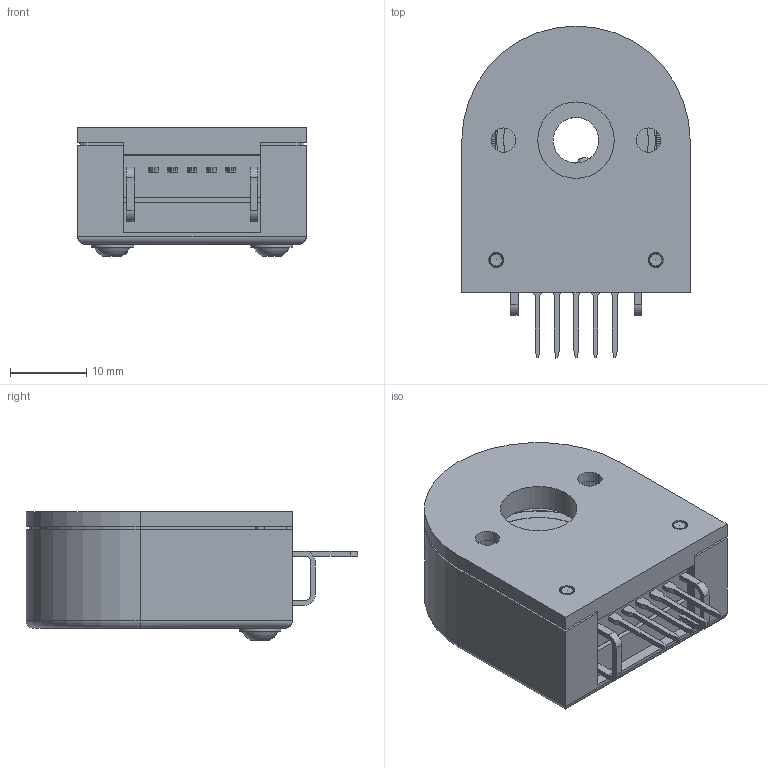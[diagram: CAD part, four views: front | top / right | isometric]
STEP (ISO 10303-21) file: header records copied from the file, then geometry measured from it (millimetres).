
FILE_DESCRIPTION (( 'STEP AP214' ), '1' );
FILE_NAME ('00.012.xx.ZSB.STEP', '2019-09-12T11:50:27', ( '' ), ( '' ), 'SwSTEP 2.0', 'SolidWorks 2019', '' );
FILE_SCHEMA (( 'AUTOMOTIVE_DESIGN' ));
Length unit declared in the file: millimetre
Products named in the file (7): 60.008.01.EIN; 22.004.03.GRU; 00.012.xx.ZSB; socket set screw flat point_iso_ISO 4026 - M2 x 2-N; 90.007.05.EIN; 32.001.01.EIN_Spritzguss; 33.002.XX.EIN
Assembly tree (7 placements, depth 2):
  00.012.xx.ZSB
    32.001.01.EIN_Spritzguss
    60.008.01.EIN
    22.004.03.GRU
    33.002.XX.EIN
    90.007.05.EIN  x2
    socket set screw flat point_iso_ISO 4026 - M2 x 2-N
Bounding box: 30 x 43.62 x 16.95 mm (x, y, z)
Volume: 8354 mm3; surface area: 11423 mm2
Topology: 17 solids, 17 shells, 1666 faces, 4226 edges, 2815 vertices
Faces by surface type: plane 980, cylinder 421, bspline 226, cone 26, torus 9, sphere 4
Full cylindrical faces by diameter (mm): 0.381 x1, 1 x3, 1.016 x15, 1.194 x2, 1.2 x2, 1.6 x1, 1.926 x2, 2 x3, 2.39 x1, 2.4 x2, 2.423 x1, 2.438 x1, 2.52 x2, 2.7 x2, 2.769 x4, 3.2 x2, 3.556 x1, 3.81 x1, 4 x2, 5.35 x1, 5.5 x2, 6 x4, 6.5 x2, 10 x1, 10.05 x1, 12 x1, 16 x1, 19.04 x1, 20.88 x1, 21.22 x1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
Entity records: 82268 total; most frequent: CARTESIAN_POINT 37397, ORIENTED_EDGE 7846, DIRECTION 7130, EDGE_CURVE 3923, VERTEX_POINT 2661, VECTOR 2628, LINE 2628, AXIS2_PLACEMENT_3D 2251
